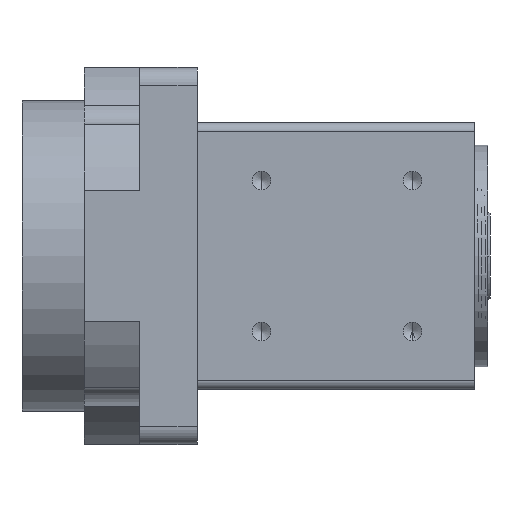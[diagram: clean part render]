
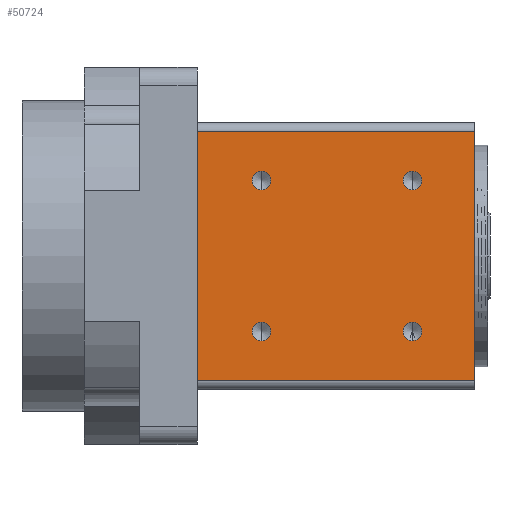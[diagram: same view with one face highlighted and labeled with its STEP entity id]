
A CAD part, left-side view. The second image highlights one B-rep face of the part: STEP entity #50724.
In plain terms, the highlighted planar face has unit normal (-1, 0, 0) as drawn and (0, 1, 0) by its records, which use the part's own axes.
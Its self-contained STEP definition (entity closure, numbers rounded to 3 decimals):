
#836 = LINE ( 'NONE', #24921, #44237 ) ;
#1148 = CARTESIAN_POINT ( 'NONE',  ( 17., 32., 17. ) ) ;
#2193 = DIRECTION ( 'NONE',  ( 0., -1., 0. ) ) ;
#4105 = CARTESIAN_POINT ( 'NONE',  ( 17., 32., 51. ) ) ;
#6376 = CARTESIAN_POINT ( 'NONE',  ( 17., 32., 14.9 ) ) ;
#6574 = DIRECTION ( 'NONE',  ( 0., 0., 1. ) ) ;
#9527 = DIRECTION ( 'NONE',  ( 0., 0., 1. ) ) ;
#9951 = FACE_BOUND ( 'NONE', #15698, .T. ) ;
#10160 = EDGE_CURVE ( 'NONE', #38073, #40745, #61011, .T. ) ;
#10327 = ORIENTED_EDGE ( 'NONE', *, *, #23016, .F. ) ;
#12108 = AXIS2_PLACEMENT_3D ( 'NONE', #23943, #2193, #62255 ) ;
#12457 = CARTESIAN_POINT ( 'NONE',  ( 17., 32., 17. ) ) ;
#13174 = LINE ( 'NONE', #38197, #25877 ) ;
#13291 = VERTEX_POINT ( 'NONE', #50109 ) ;
#13859 = EDGE_CURVE ( 'NONE', #70027, #67278, #29990, .T. ) ;
#14401 = AXIS2_PLACEMENT_3D ( 'NONE', #29655, #29562, #29410 ) ;
#15111 = AXIS2_PLACEMENT_3D ( 'NONE', #1148, #39182, #6574 ) ;
#15698 = EDGE_LOOP ( 'NONE', ( #67309, #20225 ) ) ;
#15820 = VERTEX_POINT ( 'NONE', #52395 ) ;
#15988 = ORIENTED_EDGE ( 'NONE', *, *, #70449, .F. ) ;
#16139 = LINE ( 'NONE', #35983, #28911 ) ;
#17724 = EDGE_CURVE ( 'NONE', #57581, #39989, #69610, .T. ) ;
#17742 = EDGE_CURVE ( 'NONE', #55958, #15820, #13174, .T. ) ;
#17814 = VECTOR ( 'NONE', #67354, 1000. ) ;
#17891 = DIRECTION ( 'NONE',  ( 0., 0., 1. ) ) ;
#18538 = ORIENTED_EDGE ( 'NONE', *, *, #46408, .F. ) ;
#19213 = FACE_BOUND ( 'NONE', #21183, .T. ) ;
#19318 = AXIS2_PLACEMENT_3D ( 'NONE', #12457, #50584, #17891 ) ;
#19621 = CARTESIAN_POINT ( 'NONE',  ( -17., 32., 14.9 ) ) ;
#20225 = ORIENTED_EDGE ( 'NONE', *, *, #17724, .F. ) ;
#20941 = FACE_BOUND ( 'NONE', #47432, .T. ) ;
#21183 = EDGE_LOOP ( 'NONE', ( #15988, #18538 ) ) ;
#22316 = EDGE_LOOP ( 'NONE', ( #54630, #64759 ) ) ;
#22597 = CARTESIAN_POINT ( 'NONE',  ( -17., 32., 17. ) ) ;
#23016 = EDGE_CURVE ( 'NONE', #42897, #55958, #28863, .T. ) ;
#23943 = CARTESIAN_POINT ( 'NONE',  ( -30., 32., 68.5 ) ) ;
#23981 = CARTESIAN_POINT ( 'NONE',  ( 28., 32., 3. ) ) ;
#24508 = CARTESIAN_POINT ( 'NONE',  ( 17., 32., 48.9 ) ) ;
#24921 = CARTESIAN_POINT ( 'NONE',  ( 0., 32., 65.5 ) ) ;
#24956 = DIRECTION ( 'NONE',  ( 0., 0., -1. ) ) ;
#25627 = DIRECTION ( 'NONE',  ( 0., 0., 1. ) ) ;
#25640 = DIRECTION ( 'NONE',  ( 0., 1., 0. ) ) ;
#25713 = CARTESIAN_POINT ( 'NONE',  ( 17., 32., 51. ) ) ;
#25877 = VECTOR ( 'NONE', #38051, 1000. ) ;
#26406 = CIRCLE ( 'NONE', #19318, 2.1 ) ;
#27752 = EDGE_CURVE ( 'NONE', #39989, #57581, #40156, .T. ) ;
#28082 = DIRECTION ( 'NONE',  ( 0., 0., 1. ) ) ;
#28863 = LINE ( 'NONE', #64975, #17814 ) ;
#28911 = VECTOR ( 'NONE', #24956, 1000. ) ;
#29410 = DIRECTION ( 'NONE',  ( 0., 0., 1. ) ) ;
#29562 = DIRECTION ( 'NONE',  ( 0., 1., 0. ) ) ;
#29655 = CARTESIAN_POINT ( 'NONE',  ( -17., 32., 51. ) ) ;
#29747 = DIRECTION ( 'NONE',  ( 0., 1., 0. ) ) ;
#29990 = CIRCLE ( 'NONE', #14401, 2.1 ) ;
#33558 = CARTESIAN_POINT ( 'NONE',  ( -28., 32., 3. ) ) ;
#33760 = FACE_BOUND ( 'NONE', #22316, .T. ) ;
#34271 = CARTESIAN_POINT ( 'NONE',  ( -17., 32., 19.1 ) ) ;
#35983 = CARTESIAN_POINT ( 'NONE',  ( -28., 32., 68.5 ) ) ;
#38051 = DIRECTION ( 'NONE',  ( 0., 0., 1. ) ) ;
#38073 = VERTEX_POINT ( 'NONE', #24508 ) ;
#38197 = CARTESIAN_POINT ( 'NONE',  ( 28., 32., 68.5 ) ) ;
#38363 = EDGE_CURVE ( 'NONE', #67278, #70027, #39411, .T. ) ;
#38827 = DIRECTION ( 'NONE',  ( 0., 0., 1. ) ) ;
#38900 = DIRECTION ( 'NONE',  ( 0., 1., 0. ) ) ;
#38989 = CARTESIAN_POINT ( 'NONE',  ( -17., 32., 17. ) ) ;
#39182 = DIRECTION ( 'NONE',  ( 0., 1., 0. ) ) ;
#39411 = CIRCLE ( 'NONE', #44090, 2.1 ) ;
#39989 = VERTEX_POINT ( 'NONE', #34271 ) ;
#40156 = CIRCLE ( 'NONE', #44204, 2.1 ) ;
#40214 = PLANE ( 'NONE',  #12108 ) ;
#40745 = VERTEX_POINT ( 'NONE', #47554 ) ;
#41012 = EDGE_CURVE ( 'NONE', #42317, #42897, #16139, .T. ) ;
#41250 = CIRCLE ( 'NONE', #15111, 2.1 ) ;
#41447 = AXIS2_PLACEMENT_3D ( 'NONE', #38989, #38900, #38827 ) ;
#42151 = DIRECTION ( 'NONE',  ( 0., 1., 0. ) ) ;
#42317 = VERTEX_POINT ( 'NONE', #67649 ) ;
#42897 = VERTEX_POINT ( 'NONE', #33558 ) ;
#42922 = EDGE_LOOP ( 'NONE', ( #68052, #45071, #69708, #10327 ) ) ;
#44090 = AXIS2_PLACEMENT_3D ( 'NONE', #62517, #29747, #68069 ) ;
#44204 = AXIS2_PLACEMENT_3D ( 'NONE', #22597, #60861, #28082 ) ;
#44237 = VECTOR ( 'NONE', #57701, 1000. ) ;
#45071 = ORIENTED_EDGE ( 'NONE', *, *, #59949, .F. ) ;
#45682 = EDGE_CURVE ( 'NONE', #40745, #38073, #52434, .T. ) ;
#45747 = ORIENTED_EDGE ( 'NONE', *, *, #45682, .F. ) ;
#46408 = EDGE_CURVE ( 'NONE', #64671, #13291, #41250, .T. ) ;
#47432 = EDGE_LOOP ( 'NONE', ( #45747, #58032 ) ) ;
#47554 = CARTESIAN_POINT ( 'NONE',  ( 17., 32., 53.1 ) ) ;
#50109 = CARTESIAN_POINT ( 'NONE',  ( 17., 32., 19.1 ) ) ;
#50316 = AXIS2_PLACEMENT_3D ( 'NONE', #25713, #25640, #25627 ) ;
#50584 = DIRECTION ( 'NONE',  ( 0., 1., 0. ) ) ;
#50724 = ADVANCED_FACE ( 'NONE', ( #62871, #33760, #9951, #20941, #19213 ), #40214, .F. ) ;
#52395 = CARTESIAN_POINT ( 'NONE',  ( 28., 32., 65.5 ) ) ;
#52434 = CIRCLE ( 'NONE', #66844, 2.1 ) ;
#52803 = CARTESIAN_POINT ( 'NONE',  ( -17., 32., 48.9 ) ) ;
#54630 = ORIENTED_EDGE ( 'NONE', *, *, #38363, .F. ) ;
#55741 = CARTESIAN_POINT ( 'NONE',  ( -17., 32., 53.1 ) ) ;
#55958 = VERTEX_POINT ( 'NONE', #23981 ) ;
#57581 = VERTEX_POINT ( 'NONE', #19621 ) ;
#57701 = DIRECTION ( 'NONE',  ( -1., 0., 0. ) ) ;
#58032 = ORIENTED_EDGE ( 'NONE', *, *, #10160, .F. ) ;
#59949 = EDGE_CURVE ( 'NONE', #15820, #42317, #836, .T. ) ;
#60861 = DIRECTION ( 'NONE',  ( 0., 1., 0. ) ) ;
#61011 = CIRCLE ( 'NONE', #50316, 2.1 ) ;
#62255 = DIRECTION ( 'NONE',  ( 0., 0., -1. ) ) ;
#62517 = CARTESIAN_POINT ( 'NONE',  ( -17., 32., 51. ) ) ;
#62871 = FACE_OUTER_BOUND ( 'NONE', #42922, .T. ) ;
#64671 = VERTEX_POINT ( 'NONE', #6376 ) ;
#64759 = ORIENTED_EDGE ( 'NONE', *, *, #13859, .F. ) ;
#64975 = CARTESIAN_POINT ( 'NONE',  ( 0., 32., 3. ) ) ;
#66844 = AXIS2_PLACEMENT_3D ( 'NONE', #4105, #42151, #9527 ) ;
#67278 = VERTEX_POINT ( 'NONE', #55741 ) ;
#67309 = ORIENTED_EDGE ( 'NONE', *, *, #27752, .F. ) ;
#67354 = DIRECTION ( 'NONE',  ( 1., 0., 0. ) ) ;
#67649 = CARTESIAN_POINT ( 'NONE',  ( -28., 32., 65.5 ) ) ;
#68052 = ORIENTED_EDGE ( 'NONE', *, *, #41012, .F. ) ;
#68069 = DIRECTION ( 'NONE',  ( 0., 0., 1. ) ) ;
#69610 = CIRCLE ( 'NONE', #41447, 2.1 ) ;
#69708 = ORIENTED_EDGE ( 'NONE', *, *, #17742, .F. ) ;
#70027 = VERTEX_POINT ( 'NONE', #52803 ) ;
#70449 = EDGE_CURVE ( 'NONE', #13291, #64671, #26406, .T. ) ;
